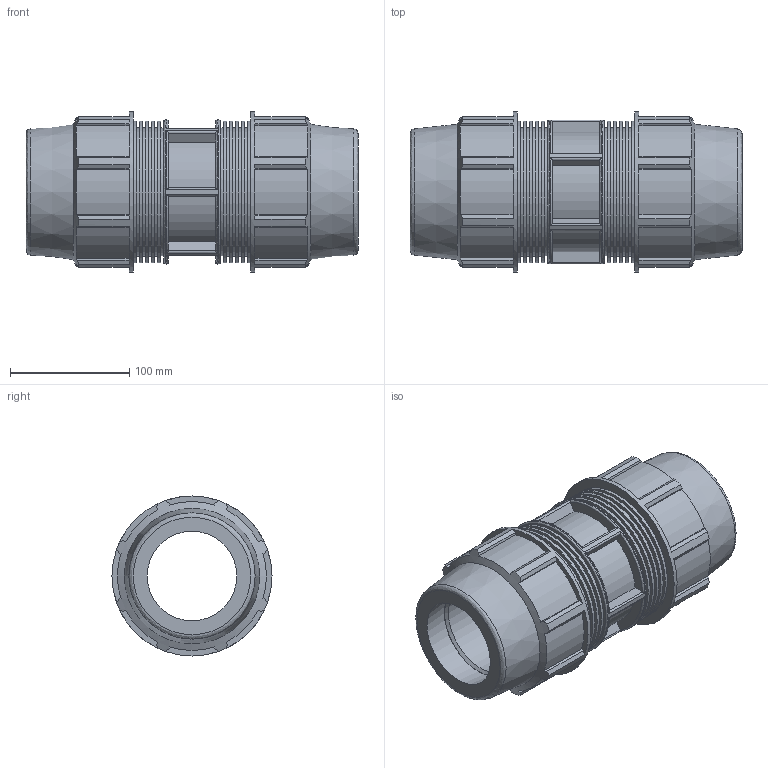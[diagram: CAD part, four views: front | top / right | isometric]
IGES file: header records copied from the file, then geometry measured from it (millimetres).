
Global section: file name: 0761060750A.ipt; native system: Autodesk Inventor 2015; preprocessor: unknown; author: KIM; date: 20170608.042728; units: millimetre
Bounding box: 278 x 134 x 134 mm (x, y, z)
Volume: 1688679.3 mm3; surface area: 241336.7 mm2
Topology: 1 solids, 1 shells, 212 faces, 551 edges, 370 vertices
Faces by surface type: plane 130, cylinder 57, revolution 21, cone 4
Full cylindrical faces by diameter (mm): 107.2 x10, 118.188 x10, 120.6 x1, 134 x2
